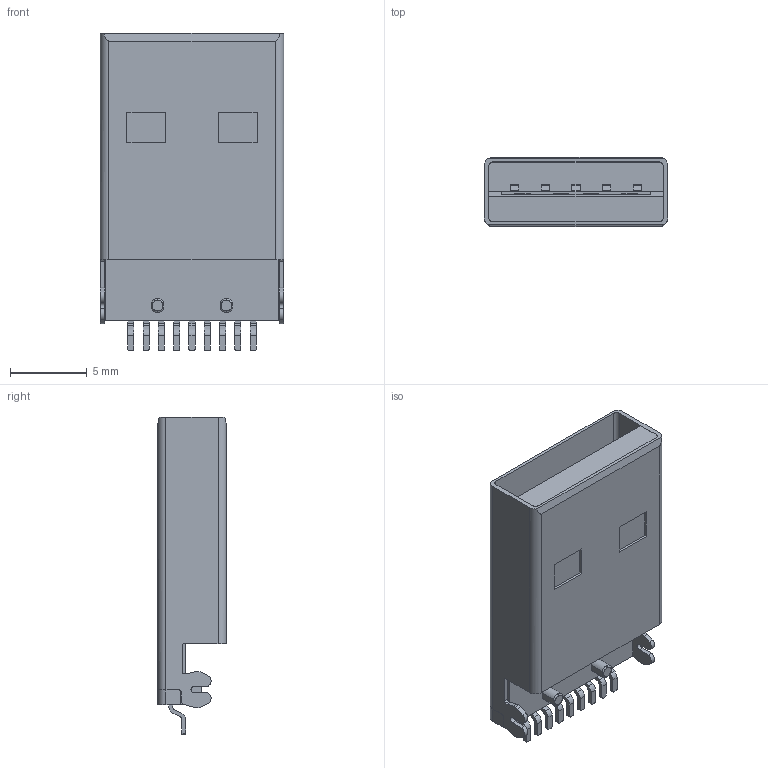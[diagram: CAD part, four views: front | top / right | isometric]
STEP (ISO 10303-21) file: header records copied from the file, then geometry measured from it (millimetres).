
FILE_DESCRIPTION (( 'STEP AP214' ), '1' );
FILE_NAME ('usb3_a-usb3_a-lp-smt-c.step', '2025-12-23T15:58:35', ( '' ), ( '' ), 'SwSTEP 2.0', 'SolidWorks 2026', '' );
FILE_SCHEMA (( 'AUTOMOTIVE_DESIGN' ));
Length unit declared in the file: inch
Products named in the file (1): usb3_a-usb3_a-lp-smt-c
Bounding box: 12 x 4.5 x 20.75 mm (x, y, z)
Volume: 679.7 mm3; surface area: 1009 mm2
Topology: 1 solids, 1 shells, 347 faces, 990 edges, 660 vertices
Faces by surface type: plane 247, cylinder 96, torus 4
Entity records: 11357 total; most frequent: CARTESIAN_POINT 2068, ORIENTED_EDGE 1980, DIRECTION 1882, EDGE_CURVE 990, VECTOR 770, LINE 770, VERTEX_POINT 660, AXIS2_PLACEMENT_3D 556
